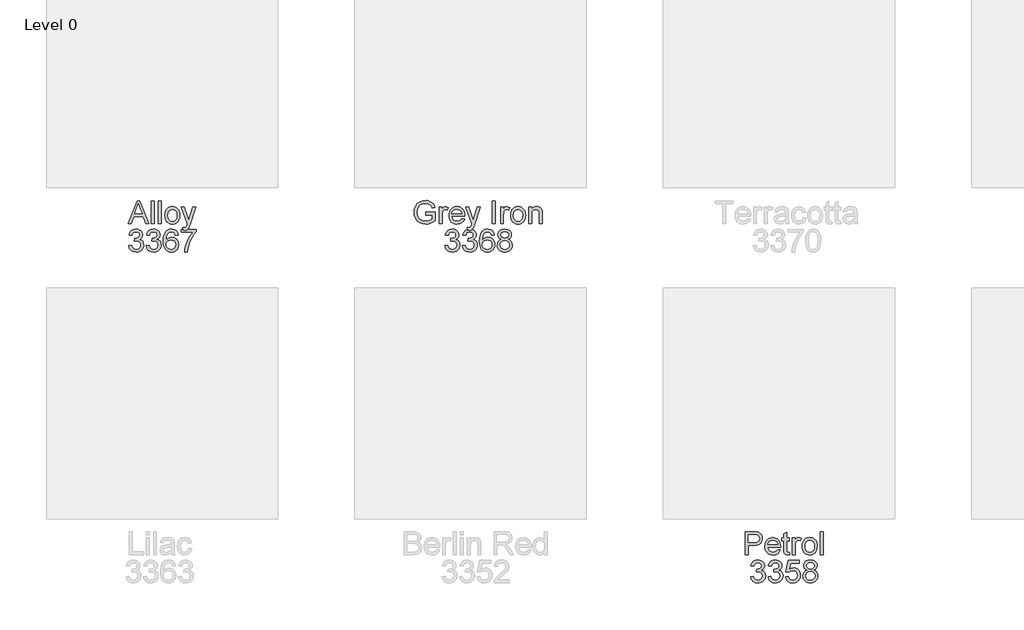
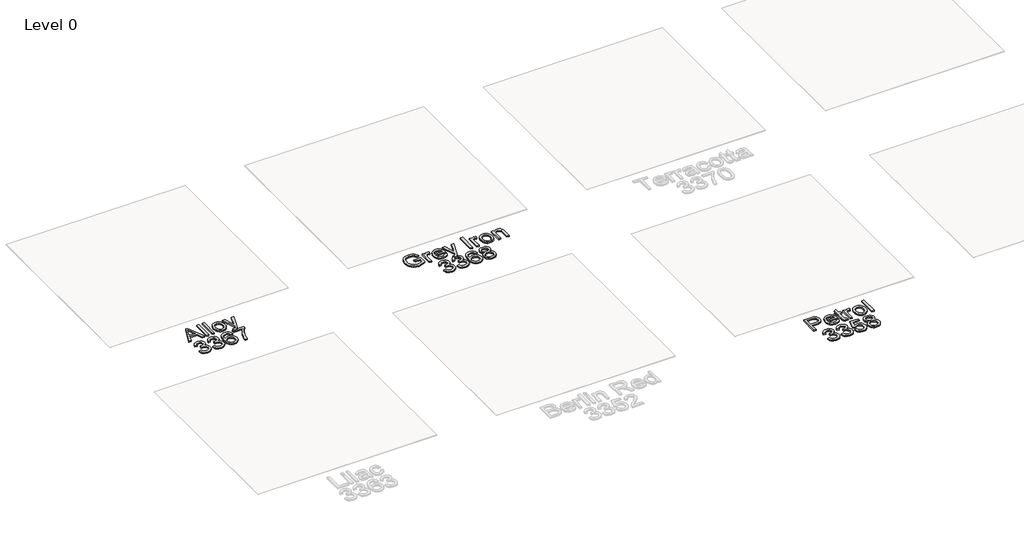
# One storey, part 2 of 6: 3 proxies.
"""IFC4 building model written with IfcOpenShell, lengths in millimetres."""

from ifc_helpers import new_model, si_unit, origin, origin_with_axes, place, context, project, spatial, polyline, outline, extrude, element, save

model = new_model("IFC4")

# Units and contexts
model_context = context("Model", 3, world=origin())
ifc_project = project(units=[si_unit("LENGTHUNIT", "METRE", prefix="MILLI")], contexts=[model_context])

# Site, building, storey
site = spatial("IfcSite", under=ifc_project)
building = spatial("IfcBuilding", under=site)
storey = spatial("IfcBuildingStorey", under=building, Name="Level 0", Elevation=0.0)

# Proxies
placement = place(None, origin())
element("IfcBuildingElementProxy", 1, Name="300mm Arial", ObjectType="300mm Arial", at=placement, inside=storey, context=model_context, shape_type="SweptSolid", body=[
    extrude(outline(polyline([(-8395.2050725, -2137.1730179), (-8277.2964187, -1841.7884025), (-8245.854111, -1841.7884025), (-8127.9454571, -2137.1730179), (-8166.9598802, -2137.1730179), (-8200.7819956, -2044.8653255), (-8322.4406494, -2044.8653255), (-8356.1906494, -2137.1730179), (-8395.2050725, -2137.1730179)]), holes=[polyline([(-8308.8829571, -2007.9422486), (-8214.2675725, -2007.9422486), (-8240.8781494, -1935.3220563), (-8261.5752648, -1878.7114794), (-8279.9646879, -1928.9759025), (-8308.8829571, -2007.9422486)])]), origin_with_axes(), (0.0, 0.0, 1.0), 20.0),
    extrude(outline(polyline([(-8093.1137264, -2137.1730179), (-8093.1137264, -1841.7884025), (-8056.1906494, -1841.7884025), (-8056.1906494, -2137.1730179), (-8093.1137264, -2137.1730179)])), origin_with_axes(), (0.0, 0.0, 1.0), 20.0),
    extrude(outline(polyline([(-8000.806034, -2137.1730179), (-8000.806034, -1841.7884025), (-7963.8829571, -1841.7884025), (-7963.8829571, -2137.1730179), (-8000.806034, -2137.1730179)])), origin_with_axes(), (0.0, 0.0, 1.0), 20.0),
    extrude(outline(polyline([(-7917.729111, -2028.7114794), (-7915.7324163, -2000.6180299), (-7909.7423321, -1976.4097967), (-7899.7588586, -1956.0867799), (-7885.7819956, -1939.6489794), (-7871.7104812, -1929.1426693), (-7856.1786302, -1921.6381621), (-7839.1864427, -1917.1354578), (-7820.7339187, -1915.6345563), (-7800.3635761, -1917.4622306), (-7781.9448562, -1922.9452534), (-7765.4777588, -1932.0836248), (-7750.962284, -1944.8773448), (-7739.1150785, -1960.893721), (-7730.6527889, -1979.7000611), (-7725.5754151, -2001.2963652), (-7723.8829571, -2025.6826332), (-7726.8757456, -2062.9843159), (-7735.854111, -2091.3797486), (-7750.556635, -2112.6447727), (-7770.7218994, -2128.5552294), (-7794.6732215, -2138.4801092), (-7820.7339187, -2141.7884025), (-7841.4017372, -2139.967489), (-7859.9917312, -2134.5047486), (-7876.5039006, -2125.4001813), (-7890.9382456, -2112.6537871), (-7902.6592492, -2096.4819121), (-7911.0313946, -2077.1009025), (-7916.0546819, -2054.5107582), (-7917.729111, -2028.7114794)]), holes=[polyline([(-7880.806034, -2028.639364), (-7876.5331975, -2062.0558304), (-7863.7146879, -2085.8629217), (-7844.4238225, -2100.1147246), (-7820.7339187, -2104.8653255), (-7797.1521879, -2100.0876813), (-7777.8973802, -2085.7547486), (-7765.0788706, -2061.6321525), (-7760.806034, -2027.4855179), (-7765.1059139, -1995.0426092), (-7778.0055533, -1971.5600371), (-7797.2874042, -1957.3082342), (-7820.7339187, -1952.5576332), (-7844.4238225, -1957.2902054), (-7863.7146879, -1971.4879217), (-7876.5331975, -1995.2409265), (-7880.806034, -2028.639364)])]), origin_with_axes(), (0.0, 0.0, 1.0), 20.0),
    extrude(outline(polyline([(-7682.3444956, -2220.2499409), (-7686.9598802, -2184.6970563), (-7668.2098802, -2187.9422486), (-7650.6858417, -2183.8677294), (-7639.9406494, -2172.5095563), (-7629.8444956, -2145.3220563), (-7626.9598802, -2136.3797486), (-7705.4214187, -1920.2499409), (-7666.479111, -1920.2499409), (-7624.868534, -2040.6826332), (-7610.3733417, -2088.8557102), (-7595.8781494, -2046.3076332), (-7553.1137264, -1920.2499409), (-7514.4598802, -1920.2499409), (-7589.9646879, -2142.3653255), (-7609.5800725, -2190.5384025), (-7619.6221398, -2205.9170082), (-7630.9983417, -2216.5720563), (-7644.213486, -2222.7920082), (-7659.7723802, -2224.8653255), (-7682.3444956, -2220.2499409)])), origin_with_axes(), (0.0, 0.0, 1.0), 20.0),
    extrude(outline(polyline([(-8386.1906494, -2423.326864), (-8349.2675725, -2418.7114794), (-8341.0013465, -2441.9146044), (-8328.8949764, -2457.5816717), (-8312.35351, -2466.5059505), (-8290.7819956, -2469.4807102), (-8265.4694956, -2465.3881621), (-8245.9262264, -2453.1105179), (-8233.432236, -2434.7932102), (-8229.2675725, -2412.5816717), (-8233.3961783, -2391.4969361), (-8245.7819956, -2374.3965755), (-8264.5319956, -2363.0654457), (-8287.7531494, -2359.2884025), (-8313.6425725, -2363.326864), (-8309.5319956, -2326.4037871), (-8303.618534, -2326.8364794), (-8281.4971398, -2324.186239), (-8261.7194956, -2316.2355179), (-8247.7651687, -2302.7859986), (-8243.1137264, -2283.639364), (-8246.4851206, -2267.6928496), (-8256.5993033, -2254.7571525), (-8272.0319956, -2246.1844361), (-8291.3589187, -2243.326864), (-8310.7218994, -2246.2114794), (-8326.5512264, -2254.8653255), (-8338.1077167, -2269.2884025), (-8344.6521879, -2289.4807102), (-8381.5752648, -2284.8653255), (-8370.7038706, -2251.7102775), (-8351.3589187, -2226.9566717), (-8324.8925725, -2211.5420082), (-8292.6569956, -2206.4037871), (-8269.4448562, -2208.93684), (-8248.1257456, -2216.5359986), (-8230.150986, -2228.5251813), (-8216.9718994, -2244.2283063), (-8208.8859619, -2262.3202534), (-8206.1906494, -2281.4759025), (-8208.7507456, -2299.3244602), (-8216.431034, -2315.514364), (-8229.1233417, -2329.3064313), (-8246.7194956, -2339.9614794), (-8223.6065148, -2349.3004217), (-8206.479111, -2365.201864), (-8195.8781494, -2386.8004217), (-8192.3444956, -2413.2307102), (-8194.1113225, -2431.9626813), (-8199.4118033, -2449.2162871), (-8208.2459379, -2464.9915275), (-8220.6137264, -2479.2884025), (-8235.6813345, -2491.1513832), (-8252.6149283, -2499.6249409), (-8271.4145076, -2504.7090755), (-8292.0800725, -2506.4037871), (-8327.7771879, -2500.6165275), (-8343.1377648, -2493.3824529), (-8356.8396879, -2483.2547486), (-8368.3285701, -2470.8283664), (-8377.0500244, -2456.6982582), (-8386.1906494, -2423.326864)])), origin_with_axes(), (0.0, 0.0, 1.0), 20.0),
    extrude(outline(polyline([(-8160.0368033, -2423.326864), (-8123.1137264, -2418.7114794), (-8114.8475004, -2441.9146044), (-8102.7411302, -2457.5816717), (-8086.1996639, -2466.5059505), (-8064.6281494, -2469.4807102), (-8039.3156494, -2465.3881621), (-8019.7723802, -2453.1105179), (-8007.2783898, -2434.7932102), (-8003.1137264, -2412.5816717), (-8007.2423321, -2391.4969361), (-8019.6281494, -2374.3965755), (-8038.3781494, -2363.0654457), (-8061.5993033, -2359.2884025), (-8087.4887264, -2363.326864), (-8083.3781494, -2326.4037871), (-8077.4646879, -2326.8364794), (-8055.3432937, -2324.186239), (-8035.5656494, -2316.2355179), (-8021.6113225, -2302.7859986), (-8016.9598802, -2283.639364), (-8020.3312744, -2267.6928496), (-8030.4454571, -2254.7571525), (-8045.8781494, -2246.1844361), (-8065.2050725, -2243.326864), (-8084.5680533, -2246.2114794), (-8100.3973802, -2254.8653255), (-8111.9538706, -2269.2884025), (-8118.4983417, -2289.4807102), (-8155.4214187, -2284.8653255), (-8144.5500244, -2251.7102775), (-8125.2050725, -2226.9566717), (-8098.7387264, -2211.5420082), (-8066.5031494, -2206.4037871), (-8043.29101, -2208.93684), (-8021.9718994, -2216.5359986), (-8003.9971398, -2228.5251813), (-7990.8180533, -2244.2283063), (-7982.7321158, -2262.3202534), (-7980.0368033, -2281.4759025), (-7982.5968994, -2299.3244602), (-7990.2771879, -2315.514364), (-8002.9694956, -2329.3064313), (-8020.5656494, -2339.9614794), (-7997.4526687, -2349.3004217), (-7980.3252648, -2365.201864), (-7969.7243033, -2386.8004217), (-7966.1906494, -2413.2307102), (-7967.9574764, -2431.9626813), (-7973.2579571, -2449.2162871), (-7982.0920917, -2464.9915275), (-7994.4598802, -2479.2884025), (-8009.5274884, -2491.1513832), (-8026.4610821, -2499.6249409), (-8045.2606614, -2504.7090755), (-8065.9262264, -2506.4037871), (-8101.6233417, -2500.6165275), (-8116.9839187, -2493.3824529), (-8130.6858417, -2483.2547486), (-8142.1747239, -2470.8283664), (-8150.8961783, -2456.6982582), (-8160.0368033, -2423.326864)])), origin_with_axes(), (0.0, 0.0, 1.0), 20.0),
    extrude(outline(polyline([(-7744.6521879, -2284.8653255), (-7781.5752648, -2289.4807102), (-7787.524784, -2271.1814313), (-7795.5656494, -2258.6874409), (-7812.3144475, -2247.1670082), (-7832.5608417, -2243.326864), (-7849.7243033, -2245.5624409), (-7865.8781494, -2252.2691717), (-7879.7513465, -2266.3947727), (-7891.0824764, -2285.8388832), (-7898.7357215, -2313.341888), (-7901.5752648, -2351.6441717), (-7886.7645677, -2334.3635227), (-7869.0151687, -2322.1850371), (-7849.3186542, -2314.9644842), (-7828.666611, -2312.5576332), (-7810.9262264, -2314.2027654), (-7794.556034, -2319.1381621), (-7779.556034, -2327.3638231), (-7765.9262264, -2338.8797486), (-7754.5996038, -2353.0008424), (-7746.509159, -2369.0420082), (-7741.6548922, -2387.0032462), (-7740.0368033, -2406.8845563), (-7743.0836783, -2433.3238592), (-7752.2243033, -2457.8340755), (-7766.7014667, -2478.6213352), (-7785.7579571, -2493.8917679), (-7808.5283898, -2503.2757823), (-7834.1473802, -2506.4037871), (-7856.1583477, -2504.3304698), (-7876.0374042, -2498.1105179), (-7893.7845497, -2487.7439313), (-7909.399784, -2473.2307102), (-7922.130403, -2453.9578736), (-7931.2237023, -2429.3124409), (-7936.6796819, -2399.2944121), (-7938.4983417, -2363.9037871), (-7936.479111, -2324.2268039), (-7930.4214187, -2290.3641236), (-7920.3252648, -2262.3157462), (-7906.1906494, -2240.0816717), (-7890.8706374, -2225.3475972), (-7873.1077167, -2214.8232582), (-7852.9018874, -2208.5086549), (-7830.2531494, -2206.4037871), (-7797.8553129, -2211.6141236), (-7771.9118033, -2227.2451332), (-7753.7387264, -2252.0708544), (-7744.6521879, -2284.8653255)]), holes=[polyline([(-7901.5752648, -2406.3076332), (-7899.4388465, -2422.6688111), (-7893.0295917, -2438.2908063), (-7883.0776687, -2451.7222967), (-7870.3132456, -2461.5119602), (-7854.9075965, -2467.4885227), (-7837.0319956, -2469.4807102), (-7812.66601, -2465.3521044), (-7793.510361, -2452.9662871), (-7781.0975004, -2433.4951332), (-7776.9598802, -2408.1105179), (-7781.0434139, -2383.7445323), (-7793.2940148, -2365.1658063), (-7812.7741831, -2353.4019842), (-7838.5464187, -2349.4807102), (-7862.8763465, -2353.4019842), (-7883.2218994, -2365.1658063), (-7896.9869235, -2383.2938111), (-7901.5752648, -2406.3076332)])]), origin_with_axes(), (0.0, 0.0, 1.0), 20.0),
    extrude(outline(polyline([(-7707.729111, -2247.9422486), (-7707.729111, -2211.0191717), (-7513.8829571, -2211.0191717), (-7513.8829571, -2240.8749409), (-7541.5121639, -2275.841888), (-7568.8709379, -2320.3100371), (-7593.0025485, -2370.2228977), (-7610.9502648, -2421.5239794), (-7619.7483417, -2459.9073929), (-7624.6521879, -2501.7884025), (-7661.5752648, -2501.7884025), (-7657.5818754, -2463.7295082), (-7646.899784, -2418.4951332), (-7629.8174523, -2370.5474169), (-7606.6233417, -2324.3484986), (-7579.5440148, -2282.5846765), (-7550.806034, -2247.9422486), (-7707.729111, -2247.9422486)])), origin_with_axes(), (0.0, 0.0, 1.0), 20.0),
])
element("IfcBuildingElementProxy", 2, Name="300mm Arial", ObjectType="300mm Arial", at=placement, inside=storey, context=model_context, shape_type="SweptSolid", body=[
    extrude(outline(polyline([(-4533.1137264, -2021.7884025), (-4533.1137264, -1984.8653255), (-4413.1137264, -1984.8653255), (-4413.1137264, -2095.2739794), (-4442.275385, -2115.5564313), (-4472.3565148, -2130.1057102), (-4503.2850004, -2138.8677294), (-4534.9887264, -2141.7884025), (-4576.4100004, -2137.1459746), (-4613.8468994, -2123.2186909), (-4644.946659, -2100.4933304), (-4667.3565148, -2069.4566717), (-4680.9051927, -2032.2271044), (-4685.4214187, -1990.9230179), (-4680.9232215, -1949.3214554), (-4667.4286302, -1910.6225371), (-4645.4965389, -1878.1615996), (-4615.6858417, -1855.2739794), (-4579.3757456, -1841.6982582), (-4537.9454571, -1837.1730179), (-4507.5307937, -1839.796215), (-4480.181034, -1847.6658063), (-4457.1491831, -1860.2138832), (-4439.6882456, -1876.8725371), (-4426.7705773, -1898.4440515), (-4417.368534, -1925.7307102), (-4451.4069956, -1935.3220563), (-4459.0061542, -1915.8599169), (-4468.2459379, -1901.1754217), (-4480.4694956, -1890.1057102), (-4497.0199764, -1881.4879217), (-4516.7525485, -1875.9440515), (-4538.5223802, -1874.0960948), (-4564.0061542, -1876.0882823), (-4585.7940148, -1882.0648448), (-4603.8048321, -1891.2775852), (-4617.9574764, -1902.9783063), (-4636.9598802, -1931.4278255), (-4645.6137264, -1959.3004217), (-4648.4983417, -1989.4085948), (-4645.0277889, -2024.71809), (-4634.6161302, -2053.7715755), (-4617.5788706, -2076.3617198), (-4594.2315148, -2092.2811909), (-4566.9087985, -2101.7192919), (-4537.9454571, -2104.8653255), (-4512.3715389, -2102.4945323), (-4487.4286302, -2095.3821525), (-4465.7669715, -2085.5834746), (-4450.0368033, -2075.1537871), (-4450.0368033, -2021.7884025), (-4533.1137264, -2021.7884025)])), origin_with_axes(), (0.0, 0.0, 1.0), 20.0),
    extrude(outline(polyline([(-4357.729111, -2137.1730179), (-4357.729111, -1920.2499409), (-4325.4214187, -1920.2499409), (-4325.4214187, -1952.3412871), (-4313.4863225, -1933.7355179), (-4302.4887264, -1922.7739794), (-4291.4550725, -1917.4194121), (-4279.4118033, -1915.6345563), (-4261.0223802, -1918.483114), (-4242.3444956, -1927.0287871), (-4254.6762264, -1960.1297486), (-4267.6569956, -1954.4506621), (-4280.6377648, -1952.5576332), (-4291.6624042, -1954.3785467), (-4301.5151687, -1959.8412871), (-4309.4749042, -1968.5311909), (-4314.8204571, -1980.0335948), (-4319.3096398, -2000.6585948), (-4320.806034, -2023.1585948), (-4320.806034, -2137.1730179), (-4357.729111, -2137.1730179)])), origin_with_axes(), (0.0, 0.0, 1.0), 20.0),
    extrude(outline(polyline([(-4067.3925725, -2072.5576332), (-4031.1906494, -2077.1730179), (-4044.2345196, -2104.4506621), (-4065.0488225, -2124.8412871), (-4093.1648081, -2137.5516236), (-4128.1137264, -2141.7884025), (-4151.0238826, -2139.9607282), (-4171.4370437, -2134.4777054), (-4189.3532095, -2125.339334), (-4204.7723802, -2112.545614), (-4217.1717191, -2096.4526152), (-4226.0283898, -2077.4164073), (-4231.3423922, -2055.4369902), (-4233.1137264, -2030.514364), (-4231.3243634, -2004.7466356), (-4225.9562744, -1982.0347967), (-4217.0094595, -1962.3788472), (-4204.4839187, -1945.7787871), (-4189.1053129, -1932.5906861), (-4171.5993033, -1923.170614), (-4151.9658898, -1917.5185707), (-4130.2050725, -1915.6345563), (-4109.1451266, -1917.5140635), (-4090.0999042, -1923.1525852), (-4073.0694054, -1932.5501212), (-4058.0536302, -1945.7066717), (-4045.7962684, -1962.2706741), (-4037.04101, -1981.8905659), (-4031.787855, -2004.5663472), (-4030.0368033, -2030.2980179), (-4030.2531494, -2040.2499409), (-4196.1906494, -2040.2499409), (-4189.7994235, -2067.8881621), (-4174.9526687, -2088.2066717), (-4153.525385, -2100.7006621), (-4127.3925725, -2104.8653255), (-4107.7411302, -2102.936239), (-4091.1906494, -2097.1489794), (-4077.7411302, -2087.1429698), (-4067.3925725, -2072.5576332)]), holes=[polyline([(-4196.1906494, -2003.326864), (-4066.9598802, -2003.326864), (-4071.9538706, -1983.8196525), (-4081.743534, -1969.8653255), (-4103.2699764, -1956.8845563), (-4130.3493033, -1952.5576332), (-4155.2381254, -1956.0101573), (-4175.8180533, -1966.3677294), (-4190.1239427, -1982.5125611), (-4196.1906494, -2003.326864)])]), origin_with_axes(), (0.0, 0.0, 1.0), 20.0),
    extrude(outline(polyline([(-3993.1137264, -2220.2499409), (-3997.729111, -2184.6970563), (-3978.979111, -2187.9422486), (-3961.4550725, -2183.8677294), (-3950.7098802, -2172.5095563), (-3940.6137264, -2145.3220563), (-3937.729111, -2136.3797486), (-4016.1906494, -1920.2499409), (-3977.2483417, -1920.2499409), (-3935.6377648, -2040.6826332), (-3921.1425725, -2088.8557102), (-3906.6473802, -2046.3076332), (-3863.8829571, -1920.2499409), (-3825.229111, -1920.2499409), (-3900.7339187, -2142.3653255), (-3920.3493033, -2190.5384025), (-3930.3913706, -2205.9170082), (-3941.7675725, -2216.5720563), (-3954.9827167, -2222.7920082), (-3970.541611, -2224.8653255), (-3993.1137264, -2220.2499409)])), origin_with_axes(), (0.0, 0.0, 1.0), 20.0),
    extrude(outline(polyline([(-3670.0368033, -2137.1730179), (-3670.0368033, -1841.7884025), (-3633.1137264, -1841.7884025), (-3633.1137264, -2137.1730179), (-3670.0368033, -2137.1730179)])), origin_with_axes(), (0.0, 0.0, 1.0), 20.0),
    extrude(outline(polyline([(-3563.8829571, -2137.1730179), (-3563.8829571, -1920.2499409), (-3531.5752648, -1920.2499409), (-3531.5752648, -1952.3412871), (-3519.6401687, -1933.7355179), (-3508.6425725, -1922.7739794), (-3497.6089187, -1917.4194121), (-3485.5656494, -1915.6345563), (-3467.1762264, -1918.483114), (-3448.4983417, -1927.0287871), (-3460.8300725, -1960.1297486), (-3473.8108417, -1954.4506621), (-3486.791611, -1952.5576332), (-3497.8162504, -1954.3785467), (-3507.6690148, -1959.8412871), (-3515.6287504, -1968.5311909), (-3520.9743033, -1980.0335948), (-3525.463486, -2000.6585948), (-3526.9598802, -2023.1585948), (-3526.9598802, -2137.1730179), (-3563.8829571, -2137.1730179)])), origin_with_axes(), (0.0, 0.0, 1.0), 20.0),
    extrude(outline(polyline([(-3434.6521879, -2028.7114794), (-3432.6554932, -2000.6180299), (-3426.665409, -1976.4097967), (-3416.6819355, -1956.0867799), (-3402.7050725, -1939.6489794), (-3388.6335581, -1929.1426693), (-3373.1017071, -1921.6381621), (-3356.1095196, -1917.1354578), (-3337.6569956, -1915.6345563), (-3317.286653, -1917.4622306), (-3298.8679331, -1922.9452534), (-3282.4008357, -1932.0836248), (-3267.885361, -1944.8773448), (-3256.0381554, -1960.893721), (-3247.5758658, -1979.7000611), (-3242.498492, -2001.2963652), (-3240.806034, -2025.6826332), (-3243.7988225, -2062.9843159), (-3252.7771879, -2091.3797486), (-3267.4797119, -2112.6447727), (-3287.6449764, -2128.5552294), (-3311.5962985, -2138.4801092), (-3337.6569956, -2141.7884025), (-3358.3248141, -2139.967489), (-3376.9148081, -2134.5047486), (-3393.4269776, -2125.4001813), (-3407.8613225, -2112.6537871), (-3419.5823261, -2096.4819121), (-3427.9544715, -2077.1009025), (-3432.9777588, -2054.5107582), (-3434.6521879, -2028.7114794)]), holes=[polyline([(-3397.729111, -2028.639364), (-3393.4562744, -2062.0558304), (-3380.6377648, -2085.8629217), (-3361.3468994, -2100.1147246), (-3337.6569956, -2104.8653255), (-3314.0752648, -2100.0876813), (-3294.8204571, -2085.7547486), (-3282.0019475, -2061.6321525), (-3277.729111, -2027.4855179), (-3282.0289908, -1995.0426092), (-3294.9286302, -1971.5600371), (-3314.2104812, -1957.3082342), (-3337.6569956, -1952.5576332), (-3361.3468994, -1957.2902054), (-3380.6377648, -1971.4879217), (-3393.4562744, -1995.2409265), (-3397.729111, -2028.639364)])]), origin_with_axes(), (0.0, 0.0, 1.0), 20.0),
    extrude(outline(polyline([(-3199.2675725, -2137.1730179), (-3199.2675725, -1920.2499409), (-3162.3444956, -1920.2499409), (-3162.3444956, -1950.5384025), (-3149.5169715, -1935.2679698), (-3134.1113225, -1924.3605179), (-3116.1275485, -1917.8160467), (-3095.5656494, -1915.6345563), (-3077.3655292, -1917.3923688), (-3060.697861, -1922.6658063), (-3046.7976206, -1930.7968159), (-3036.899784, -1941.1273448), (-3025.8300725, -1968.2787871), (-3023.8829571, -2003.9759025), (-3023.8829571, -2137.1730179), (-3060.806034, -2137.1730179), (-3060.806034, -2008.951864), (-3065.0608417, -1976.2835948), (-3070.94726, -1966.5570323), (-3080.0968994, -1959.0119602), (-3091.8246639, -1954.171215), (-3105.4454571, -1952.5576332), (-3127.0710581, -1956.1814313), (-3145.5055533, -1967.0528255), (-3152.8725905, -1975.9275251), (-3158.13476, -1988.0564313), (-3162.3444956, -2022.076864), (-3162.3444956, -2137.1730179), (-3199.2675725, -2137.1730179)])), origin_with_axes(), (0.0, 0.0, 1.0), 20.0),
    extrude(outline(polyline([(-4286.1906494, -2423.326864), (-4249.2675725, -2418.7114794), (-4241.0013465, -2441.9146044), (-4228.8949764, -2457.5816717), (-4212.35351, -2466.5059505), (-4190.7819956, -2469.4807102), (-4165.4694956, -2465.3881621), (-4145.9262264, -2453.1105179), (-4133.432236, -2434.7932102), (-4129.2675725, -2412.5816717), (-4133.3961783, -2391.4969361), (-4145.7819956, -2374.3965755), (-4164.5319956, -2363.0654457), (-4187.7531494, -2359.2884025), (-4213.6425725, -2363.326864), (-4209.5319956, -2326.4037871), (-4203.618534, -2326.8364794), (-4181.4971398, -2324.186239), (-4161.7194956, -2316.2355179), (-4147.7651687, -2302.7859986), (-4143.1137264, -2283.639364), (-4146.4851206, -2267.6928496), (-4156.5993033, -2254.7571525), (-4172.0319956, -2246.1844361), (-4191.3589187, -2243.326864), (-4210.7218994, -2246.2114794), (-4226.5512264, -2254.8653255), (-4238.1077167, -2269.2884025), (-4244.6521879, -2289.4807102), (-4281.5752648, -2284.8653255), (-4270.7038706, -2251.7102775), (-4251.3589187, -2226.9566717), (-4224.8925725, -2211.5420082), (-4192.6569956, -2206.4037871), (-4169.4448562, -2208.93684), (-4148.1257456, -2216.5359986), (-4130.150986, -2228.5251813), (-4116.9718994, -2244.2283063), (-4108.8859619, -2262.3202534), (-4106.1906494, -2281.4759025), (-4108.7507456, -2299.3244602), (-4116.431034, -2315.514364), (-4129.1233417, -2329.3064313), (-4146.7194956, -2339.9614794), (-4123.6065148, -2349.3004217), (-4106.479111, -2365.201864), (-4095.8781494, -2386.8004217), (-4092.3444956, -2413.2307102), (-4094.1113225, -2431.9626813), (-4099.4118033, -2449.2162871), (-4108.2459379, -2464.9915275), (-4120.6137264, -2479.2884025), (-4135.6813345, -2491.1513832), (-4152.6149283, -2499.6249409), (-4171.4145076, -2504.7090755), (-4192.0800725, -2506.4037871), (-4227.7771879, -2500.6165275), (-4243.1377648, -2493.3824529), (-4256.8396879, -2483.2547486), (-4268.3285701, -2470.8283664), (-4277.0500244, -2456.6982582), (-4286.1906494, -2423.326864)])), origin_with_axes(), (0.0, 0.0, 1.0), 20.0),
    extrude(outline(polyline([(-4060.0368033, -2423.326864), (-4023.1137264, -2418.7114794), (-4014.8475004, -2441.9146044), (-4002.7411302, -2457.5816717), (-3986.1996639, -2466.5059505), (-3964.6281494, -2469.4807102), (-3939.3156494, -2465.3881621), (-3919.7723802, -2453.1105179), (-3907.2783898, -2434.7932102), (-3903.1137264, -2412.5816717), (-3907.2423321, -2391.4969361), (-3919.6281494, -2374.3965755), (-3938.3781494, -2363.0654457), (-3961.5993033, -2359.2884025), (-3987.4887264, -2363.326864), (-3983.3781494, -2326.4037871), (-3977.4646879, -2326.8364794), (-3955.3432937, -2324.186239), (-3935.5656494, -2316.2355179), (-3921.6113225, -2302.7859986), (-3916.9598802, -2283.639364), (-3920.3312744, -2267.6928496), (-3930.4454571, -2254.7571525), (-3945.8781494, -2246.1844361), (-3965.2050725, -2243.326864), (-3984.5680533, -2246.2114794), (-4000.3973802, -2254.8653255), (-4011.9538706, -2269.2884025), (-4018.4983417, -2289.4807102), (-4055.4214187, -2284.8653255), (-4044.5500244, -2251.7102775), (-4025.2050725, -2226.9566717), (-3998.7387264, -2211.5420082), (-3966.5031494, -2206.4037871), (-3943.29101, -2208.93684), (-3921.9718994, -2216.5359986), (-3903.9971398, -2228.5251813), (-3890.8180533, -2244.2283063), (-3882.7321158, -2262.3202534), (-3880.0368033, -2281.4759025), (-3882.5968994, -2299.3244602), (-3890.2771879, -2315.514364), (-3902.9694956, -2329.3064313), (-3920.5656494, -2339.9614794), (-3897.4526687, -2349.3004217), (-3880.3252648, -2365.201864), (-3869.7243033, -2386.8004217), (-3866.1906494, -2413.2307102), (-3867.9574764, -2431.9626813), (-3873.2579571, -2449.2162871), (-3882.0920917, -2464.9915275), (-3894.4598802, -2479.2884025), (-3909.5274884, -2491.1513832), (-3926.4610821, -2499.6249409), (-3945.2606614, -2504.7090755), (-3965.9262264, -2506.4037871), (-4001.6233417, -2500.6165275), (-4016.9839187, -2493.3824529), (-4030.6858417, -2483.2547486), (-4042.1747239, -2470.8283664), (-4050.8961783, -2456.6982582), (-4060.0368033, -2423.326864)])), origin_with_axes(), (0.0, 0.0, 1.0), 20.0),
    extrude(outline(polyline([(-3644.6521879, -2284.8653255), (-3681.5752648, -2289.4807102), (-3687.524784, -2271.1814313), (-3695.5656494, -2258.6874409), (-3712.3144475, -2247.1670082), (-3732.5608417, -2243.326864), (-3749.7243033, -2245.5624409), (-3765.8781494, -2252.2691717), (-3779.7513465, -2266.3947727), (-3791.0824764, -2285.8388832), (-3798.7357215, -2313.341888), (-3801.5752648, -2351.6441717), (-3786.7645677, -2334.3635227), (-3769.0151687, -2322.1850371), (-3749.3186542, -2314.9644842), (-3728.666611, -2312.5576332), (-3710.9262264, -2314.2027654), (-3694.556034, -2319.1381621), (-3679.556034, -2327.3638231), (-3665.9262264, -2338.8797486), (-3654.5996038, -2353.0008424), (-3646.509159, -2369.0420082), (-3641.6548922, -2387.0032462), (-3640.0368033, -2406.8845563), (-3643.0836783, -2433.3238592), (-3652.2243033, -2457.8340755), (-3666.7014667, -2478.6213352), (-3685.7579571, -2493.8917679), (-3708.5283898, -2503.2757823), (-3734.1473802, -2506.4037871), (-3756.1583477, -2504.3304698), (-3776.0374042, -2498.1105179), (-3793.7845497, -2487.7439313), (-3809.399784, -2473.2307102), (-3822.130403, -2453.9578736), (-3831.2237023, -2429.3124409), (-3836.6796819, -2399.2944121), (-3838.4983417, -2363.9037871), (-3836.479111, -2324.2268039), (-3830.4214187, -2290.3641236), (-3820.3252648, -2262.3157462), (-3806.1906494, -2240.0816717), (-3790.8706374, -2225.3475972), (-3773.1077167, -2214.8232582), (-3752.9018874, -2208.5086549), (-3730.2531494, -2206.4037871), (-3697.8553129, -2211.6141236), (-3671.9118033, -2227.2451332), (-3653.7387264, -2252.0708544), (-3644.6521879, -2284.8653255)]), holes=[polyline([(-3801.5752648, -2406.3076332), (-3799.4388465, -2422.6688111), (-3793.0295917, -2438.2908063), (-3783.0776687, -2451.7222967), (-3770.3132456, -2461.5119602), (-3754.9075965, -2467.4885227), (-3737.0319956, -2469.4807102), (-3712.66601, -2465.3521044), (-3693.510361, -2452.9662871), (-3681.0975004, -2433.4951332), (-3676.9598802, -2408.1105179), (-3681.0434139, -2383.7445323), (-3693.2940148, -2365.1658063), (-3712.7741831, -2353.4019842), (-3738.5464187, -2349.4807102), (-3762.8763465, -2353.4019842), (-3783.2218994, -2365.1658063), (-3796.9869235, -2383.2938111), (-3801.5752648, -2406.3076332)])]), origin_with_axes(), (0.0, 0.0, 1.0), 20.0),
    extrude(outline(polyline([(-3553.931034, -2339.0960948), (-3573.6996639, -2329.3605179), (-3587.572861, -2316.1634025), (-3595.7669715, -2299.7751813), (-3598.4983417, -2280.4662871), (-3592.5488225, -2251.6021044), (-3574.7002648, -2227.7499409), (-3561.814147, -2218.4109986), (-3546.9538706, -2211.7403255), (-3511.3108417, -2206.4037871), (-3475.4514667, -2211.8665275), (-3460.4289307, -2218.6949529), (-3447.3444956, -2228.2547486), (-3429.1714187, -2252.4855179), (-3424.6281494, -2266.3857582), (-3423.1137264, -2281.4759025), (-3425.8090389, -2300.1628015), (-3433.8949764, -2316.2715755), (-3447.4616831, -2329.3875611), (-3466.5993033, -2339.0960948), (-3443.8739427, -2350.8058304), (-3427.3324764, -2368.0504217), (-3417.2453369, -2390.0005419), (-3413.8829571, -2415.826864), (-3415.5506254, -2434.2433304), (-3420.5536302, -2451.1273448), (-3428.8919715, -2466.4789073), (-3440.5656494, -2480.2980179), (-3454.9616831, -2491.7192919), (-3471.4670917, -2499.8773448), (-3490.0818754, -2504.7721765), (-3510.806034, -2506.4037871), (-3531.5301927, -2504.7654157), (-3550.1449764, -2499.8503015), (-3566.650385, -2491.6584445), (-3581.0464187, -2480.1898448), (-3592.7200965, -2466.2738292), (-3601.0584379, -2450.7397246), (-3606.0614427, -2433.5875311), (-3607.729111, -2414.8172486), (-3604.2315148, -2387.9903255), (-3593.7387264, -2365.9230179), (-3576.791611, -2349.3725371), (-3553.931034, -2339.0960948)]), holes=[polyline([(-3570.806034, -2413.5191717), (-3564.6401687, -2441.3196525), (-3556.10351, -2453.2457342), (-3542.8252648, -2462.1249409), (-3526.9238225, -2467.6417679), (-3510.5175725, -2469.4807102), (-3485.385361, -2465.6135227), (-3466.5271879, -2454.0119602), (-3454.7363225, -2436.4428496), (-3450.806034, -2414.6730179), (-3454.8625244, -2392.5335948), (-3467.0319956, -2374.576864), (-3486.322861, -2362.6778255), (-3511.743534, -2358.7114794), (-3536.5241831, -2362.623739), (-3555.1930533, -2374.3605179), (-3566.9027889, -2391.9747005), (-3570.806034, -2413.5191717)]), polyline([(-3561.5752648, -2281.5480179), (-3558.3030292, -2297.6658063), (-3548.4863225, -2310.5384025), (-3532.4136062, -2318.9759025), (-3510.3733417, -2321.7884025), (-3488.8468994, -2318.9939313), (-3473.0175725, -2310.6105179), (-3463.2819956, -2298.170614), (-3460.0368033, -2283.2066717), (-3463.3901687, -2267.6748207), (-3473.4502648, -2254.8292679), (-3489.4959379, -2246.202465), (-3510.806034, -2243.326864), (-3532.2513465, -2246.139364), (-3548.2699764, -2254.576864), (-3558.2489427, -2266.9446525), (-3561.5752648, -2281.5480179)])]), origin_with_axes(), (0.0, 0.0, 1.0), 20.0),
])
element("IfcBuildingElementProxy", 3, Name="300mm Arial", ObjectType="300mm Arial", at=placement, inside=storey, context=model_context, shape_type="SweptSolid", body=[
    extrude(outline(polyline([(-390.9332218, -6431.0059242), (-390.9332218, -6135.6213089), (-281.4620679, -6135.6213089), (-237.3274525, -6138.4338089), (-217.6489669, -6143.6892175), (-201.4500487, -6152.243905), (-188.4061785, -6164.4854916), (-178.1928371, -6180.8015973), (-171.5942794, -6200.0473906), (-169.3947602, -6221.0780396), (-175.335265, -6255.8917416), (-182.760896, -6271.1216093), (-193.1567794, -6284.900155), (-207.4288648, -6296.3214291), (-226.4831016, -6304.4794819), (-250.3194898, -6309.3743137), (-278.9380294, -6311.0059242), (-354.0101448, -6311.0059242), (-354.0101448, -6431.0059242), (-390.9332218, -6431.0059242)]), holes=[polyline([(-354.0101448, -6274.0828473), (-276.7745679, -6274.0828473), (-244.0341833, -6270.6934242), (-222.3995679, -6260.525155), (-210.3382698, -6244.2090492), (-206.3178371, -6222.3761166), (-208.6886304, -6205.7895781), (-215.8010102, -6191.7991935), (-226.7715631, -6181.2703473), (-240.7168756, -6175.0684242), (-277.6399525, -6172.5443858), (-354.0101448, -6172.5443858), (-354.0101448, -6274.0828473)])]), origin_with_axes(), (0.0, 0.0, 1.0), 20.0),
    extrude(outline(polyline([(28.6340859, -6366.3905396), (64.836009, -6371.0059242), (51.7921388, -6398.2835685), (30.9778359, -6418.6741935), (2.8618504, -6431.38453), (-32.0870679, -6435.6213089), (-54.9972242, -6433.7936346), (-75.4103852, -6428.3106117), (-93.3265511, -6419.1722404), (-108.7457218, -6406.3785204), (-121.1450607, -6390.2855216), (-130.0017314, -6371.2493137), (-135.3157338, -6349.2698966), (-137.0870679, -6324.3472704), (-135.2977049, -6298.579542), (-129.929616, -6275.8677031), (-120.9828011, -6256.2117536), (-108.4572602, -6239.6116935), (-93.0786544, -6226.4235925), (-75.5726448, -6217.0035204), (-55.9392314, -6211.3514771), (-34.1784141, -6209.4674627), (-13.1184681, -6211.3469699), (5.9267542, -6216.9854916), (22.957253, -6226.3830276), (37.9730282, -6239.5395781), (50.23039, -6256.1035805), (58.9856484, -6275.7234723), (64.2388035, -6298.3992536), (65.9898552, -6324.1309242), (65.773509, -6334.0828473), (-100.163991, -6334.0828473), (-93.772765, -6361.7210685), (-78.9260102, -6382.0395781), (-57.4987266, -6394.5335685), (-31.3659141, -6398.6982319), (-11.7144718, -6396.7691454), (4.836009, -6390.9818858), (18.2855282, -6380.9758762), (28.6340859, -6366.3905396)]), holes=[polyline([(-100.163991, -6297.1597704), (29.0667782, -6297.1597704), (24.0727879, -6277.6525589), (14.2831244, -6263.6982319), (-7.2433179, -6250.7174627), (-34.3226448, -6246.3905396), (-59.2114669, -6249.8430637), (-79.7913948, -6260.2006358), (-94.0972843, -6276.3454675), (-100.163991, -6297.1597704)])]), origin_with_axes(), (0.0, 0.0, 1.0), 20.0),
    extrude(outline(polyline([(181.3744706, -6400.212655), (185.9898552, -6432.087655), (158.3696629, -6435.6213089), (140.6473071, -6434.0888569), (127.4321629, -6429.4915012), (118.0932206, -6422.4061646), (111.9994706, -6413.4097704), (108.6461052, -6397.9590492), (107.5283167, -6371.5107319), (107.5283167, -6251.0059242), (79.836009, -6251.0059242), (79.836009, -6214.0828473), (107.5283167, -6214.0828473), (107.5283167, -6161.3665012), (144.4513936, -6139.6597704), (144.4513936, -6214.0828473), (181.3744706, -6214.0828473), (181.3744706, -6251.0059242), (144.4513936, -6251.0059242), (144.4513936, -6370.4290012), (146.398509, -6389.4674627), (152.7086052, -6396.2102512), (165.2927398, -6398.6982319), (181.3744706, -6400.212655)])), origin_with_axes(), (0.0, 0.0, 1.0), 20.0),
    extrude(outline(polyline([(218.2975475, -6431.0059242), (218.2975475, -6214.0828473), (250.6052398, -6214.0828473), (250.6052398, -6246.1741935), (262.5403359, -6227.5684242), (273.5379321, -6216.6068858), (284.5715859, -6211.2523185), (296.6148552, -6209.4674627), (315.0042782, -6212.3160204), (333.6821629, -6220.8616935), (321.3504321, -6253.962655), (308.3696629, -6248.2835685), (295.3888936, -6246.3905396), (284.3642542, -6248.2114531), (274.5114898, -6253.6741935), (266.5517542, -6262.3640973), (261.2062013, -6273.8665012), (256.7170186, -6294.4915012), (255.2206244, -6316.9915012), (255.2206244, -6431.0059242), (218.2975475, -6431.0059242)])), origin_with_axes(), (0.0, 0.0, 1.0), 20.0),
    extrude(outline(polyline([(347.5283167, -6322.5443858), (349.5250114, -6294.4509363), (355.5150956, -6270.2427031), (365.4985691, -6249.9196863), (379.4754321, -6233.4818858), (393.5469465, -6222.9755757), (409.0787975, -6215.4710685), (426.070985, -6210.9683642), (444.523509, -6209.4674627), (464.8938516, -6211.295137), (483.3125715, -6216.7781598), (499.7796689, -6225.9165312), (514.2951436, -6238.7102512), (526.1423492, -6254.7266274), (534.6046388, -6273.5329675), (539.6820126, -6295.1292716), (541.3744706, -6319.5155396), (538.3816821, -6356.8172223), (529.4033167, -6385.212655), (514.7007927, -6406.4776791), (494.5355282, -6422.3881358), (470.5842061, -6432.3130156), (444.523509, -6435.6213089), (423.8556905, -6433.8003954), (405.2656965, -6428.337655), (388.753527, -6419.2330877), (374.3191821, -6406.4866935), (362.5981785, -6390.3148185), (354.2260331, -6370.9338089), (349.2027458, -6348.3436646), (347.5283167, -6322.5443858)]), holes=[polyline([(384.4513936, -6322.4722704), (388.7242302, -6355.8887367), (401.5427398, -6379.6958281), (420.8336052, -6393.947631), (444.523509, -6398.6982319), (468.1052398, -6393.9205877), (487.3600475, -6379.587655), (500.1785571, -6355.4650589), (504.4513936, -6321.3184242), (500.1515138, -6288.8755156), (487.2518744, -6265.3929435), (467.9700234, -6251.1411406), (444.523509, -6246.3905396), (420.8336052, -6251.1231117), (401.5427398, -6265.3208281), (388.7242302, -6289.0738329), (384.4513936, -6322.4722704)])]), origin_with_axes(), (0.0, 0.0, 1.0), 20.0),
    extrude(outline(polyline([(582.9129321, -6431.0059242), (582.9129321, -6135.6213089), (619.836009, -6135.6213089), (619.836009, -6431.0059242), (582.9129321, -6431.0059242)])), origin_with_axes(), (0.0, 0.0, 1.0), 20.0),
    extrude(outline(polyline([(-321.7024525, -6717.1597704), (-284.7793756, -6712.5443858), (-276.5131496, -6735.7475108), (-264.4067794, -6751.4145781), (-247.8653131, -6760.3388569), (-226.2937987, -6763.3136166), (-200.9812987, -6759.2210685), (-181.4380294, -6746.9434242), (-168.9440391, -6728.6261166), (-164.7793756, -6706.4145781), (-168.9079814, -6685.3298425), (-181.2937987, -6668.2294819), (-200.0437987, -6656.8983521), (-223.2649525, -6653.1213089), (-249.1543756, -6657.1597704), (-245.0437987, -6620.2366935), (-239.1303371, -6620.6693858), (-217.0089429, -6618.0191454), (-197.2312987, -6610.0684242), (-183.2769718, -6596.618905), (-178.6255294, -6577.4722704), (-181.9969237, -6561.525756), (-192.1111064, -6548.5900589), (-207.5437987, -6540.0173425), (-226.8707218, -6537.1597704), (-246.2337025, -6540.0443858), (-262.0630294, -6548.6982319), (-273.6195198, -6563.1213089), (-280.163991, -6583.3136166), (-317.0870679, -6578.6982319), (-306.2156737, -6545.5431839), (-286.8707218, -6520.7895781), (-260.4043756, -6505.3749146), (-228.1687987, -6500.2366935), (-204.9566593, -6502.7697464), (-183.6375487, -6510.368905), (-165.6627891, -6522.3580877), (-152.4837025, -6538.0612127), (-144.397765, -6556.1531598), (-141.7024525, -6575.3088089), (-144.2625487, -6593.1573666), (-151.9428371, -6609.3472704), (-164.6351448, -6623.1393377), (-182.2312987, -6633.7943858), (-159.1183179, -6643.1333281), (-141.9909141, -6659.0347704), (-131.3899525, -6680.6333281), (-127.8562987, -6707.0636166), (-129.6231256, -6725.7955877), (-134.9236064, -6743.0491935), (-143.757741, -6758.8244339), (-156.1255294, -6773.1213089), (-171.1931376, -6784.9842896), (-188.1267314, -6793.4578473), (-206.9263107, -6798.5419819), (-227.5918756, -6800.2366935), (-263.288991, -6794.4494339), (-278.6495679, -6787.2153593), (-292.351491, -6777.087655), (-303.8403732, -6764.6612728), (-312.5618275, -6750.5311646), (-321.7024525, -6717.1597704)])), origin_with_axes(), (0.0, 0.0, 1.0), 20.0),
    extrude(outline(polyline([(-95.5486064, -6717.1597704), (-58.6255294, -6712.5443858), (-50.3593035, -6735.7475108), (-38.2529333, -6751.4145781), (-21.7114669, -6760.3388569), (-0.1399525, -6763.3136166), (25.1725475, -6759.2210685), (44.7158167, -6746.9434242), (57.2098071, -6728.6261166), (61.3744706, -6706.4145781), (57.2458648, -6685.3298425), (44.8600475, -6668.2294819), (26.1100475, -6656.8983521), (2.8888936, -6653.1213089), (-23.0005294, -6657.1597704), (-18.8899525, -6620.2366935), (-12.976491, -6620.6693858), (9.1449032, -6618.0191454), (28.9225475, -6610.0684242), (42.8768744, -6596.618905), (47.5283167, -6577.4722704), (44.1569225, -6561.525756), (34.0427398, -6548.5900589), (18.6100475, -6540.0173425), (-0.7168756, -6537.1597704), (-20.0798564, -6540.0443858), (-35.9091833, -6548.6982319), (-47.4656737, -6563.1213089), (-54.0101448, -6583.3136166), (-90.9332218, -6578.6982319), (-80.0618275, -6545.5431839), (-60.7168756, -6520.7895781), (-34.2505294, -6505.3749146), (-2.0149525, -6500.2366935), (21.1971869, -6502.7697464), (42.5162975, -6510.368905), (60.4910571, -6522.3580877), (73.6701436, -6538.0612127), (81.7560811, -6556.1531598), (84.4513936, -6575.3088089), (81.8912975, -6593.1573666), (74.211009, -6609.3472704), (61.5187013, -6623.1393377), (43.9225475, -6633.7943858), (67.0355282, -6643.1333281), (84.1629321, -6659.0347704), (94.7638936, -6680.6333281), (98.2975475, -6707.0636166), (96.5307206, -6725.7955877), (91.2302398, -6743.0491935), (82.3961052, -6758.8244339), (70.0283167, -6773.1213089), (54.9607085, -6784.9842896), (38.0271148, -6793.4578473), (19.2275355, -6798.5419819), (-1.4380294, -6800.2366935), (-37.1351448, -6794.4494339), (-52.4957218, -6787.2153593), (-66.1976448, -6777.087655), (-77.686527, -6764.6612728), (-86.4079814, -6750.5311646), (-95.5486064, -6717.1597704)])), origin_with_axes(), (0.0, 0.0, 1.0), 20.0),
    extrude(outline(polyline([(130.6052398, -6717.1597704), (167.5283167, -6712.5443858), (174.3071629, -6734.7108521), (186.1340859, -6750.5852512), (202.9549994, -6760.1315252), (224.7158167, -6763.3136166), (251.1821629, -6758.8875348), (271.0138936, -6745.6092896), (283.3997109, -6725.0113329), (287.5283167, -6698.6261166), (283.6611292, -6673.7823666), (272.0595667, -6654.7799627), (252.633485, -6642.7186646), (225.2927398, -6638.6982319), (207.3810811, -6640.3027992), (192.8768744, -6645.1165012), (172.1437013, -6661.775155), (135.2206244, -6657.1597704), (167.5283167, -6504.8520781), (310.6052398, -6504.8520781), (310.6052398, -6541.775155), (197.3840859, -6541.775155), (181.5908167, -6623.1213089), (207.9670186, -6607.1116935), (235.6052398, -6601.775155), (253.5867602, -6603.4293017), (270.1034369, -6608.3917416), (285.1552698, -6616.6624747), (298.742259, -6628.2415012), (309.9900054, -6642.4211887), (318.02411, -6658.493905), (322.8445727, -6676.4596502), (324.4513936, -6696.3184242), (318.664134, -6733.2415012), (311.4300595, -6749.7018377), (301.3023552, -6764.8280396), (285.9598071, -6780.3193257), (268.0571629, -6791.38453), (247.5944225, -6798.0236526), (224.5715859, -6800.2366935), (188.3065619, -6794.5485925), (172.9392242, -6787.4384663), (159.4153359, -6777.4842896), (148.1630823, -6765.1818557), (139.6106484, -6751.0269579), (130.6052398, -6717.1597704)])), origin_with_axes(), (0.0, 0.0, 1.0), 20.0),
    extrude(outline(polyline([(410.5571629, -6632.9290012), (390.7885331, -6623.1934242), (376.9153359, -6609.9963089), (368.7212254, -6593.6080877), (365.9898552, -6574.2991935), (371.9393744, -6545.4350108), (389.7879321, -6521.5828473), (402.6740499, -6512.243905), (417.5343263, -6505.5732319), (453.1773552, -6500.2366935), (489.0367302, -6505.6994339), (504.0592662, -6512.5278593), (517.1437013, -6522.087655), (535.3167782, -6546.3184242), (539.8600475, -6560.2186646), (541.3744706, -6575.3088089), (538.6791581, -6593.9957079), (530.5932206, -6610.1044819), (517.0265138, -6623.2204675), (497.8888936, -6632.9290012), (520.6142542, -6644.6387367), (537.1557206, -6661.8833281), (547.24286, -6683.8334483), (550.6052398, -6709.6597704), (548.9375715, -6728.0762367), (543.9345667, -6744.9602512), (535.5962254, -6760.3118137), (523.9225475, -6774.1309242), (509.5265138, -6785.5521983), (493.0211052, -6793.7102512), (474.4063215, -6798.6050829), (453.6821629, -6800.2366935), (432.9580042, -6798.5983221), (414.3432206, -6793.6832079), (397.8378119, -6785.4913509), (383.4417782, -6774.0227512), (371.7681004, -6760.1067355), (363.429759, -6744.572631), (358.4267542, -6727.4204375), (356.7590859, -6708.650155), (360.2566821, -6681.8232319), (370.7494706, -6659.7559242), (387.6965859, -6643.2054435), (410.5571629, -6632.9290012)]), holes=[polyline([(393.6821629, -6707.3520781), (399.8480282, -6735.1525589), (408.3846869, -6747.0786406), (421.6629321, -6755.9578473), (437.5643744, -6761.4746742), (453.9706244, -6763.3136166), (479.1028359, -6759.4464291), (497.961009, -6747.8448666), (509.7518744, -6730.275756), (513.6821629, -6708.5059242), (509.6256725, -6686.3665012), (497.4562013, -6668.4097704), (478.1653359, -6656.5107319), (452.7446629, -6652.5443858), (427.9640138, -6656.4566454), (409.2951436, -6668.1934242), (397.5854081, -6685.8076069), (393.6821629, -6707.3520781)]), polyline([(402.9129321, -6575.3809242), (406.1851677, -6591.4987127), (416.0018744, -6604.3713089), (432.0745907, -6612.8088089), (454.1148552, -6615.6213089), (475.6412975, -6612.8268377), (491.4706244, -6604.4434242), (501.2062013, -6592.0035204), (504.4513936, -6577.0395781), (501.0980282, -6561.5077271), (491.0379321, -6548.6621742), (474.992259, -6540.0353714), (453.6821629, -6537.1597704), (432.2368504, -6539.9722704), (416.2182206, -6548.4097704), (406.2392542, -6560.7775589), (402.9129321, -6575.3809242)])]), origin_with_axes(), (0.0, 0.0, 1.0), 20.0),
])

save(model, "model.ifc")
